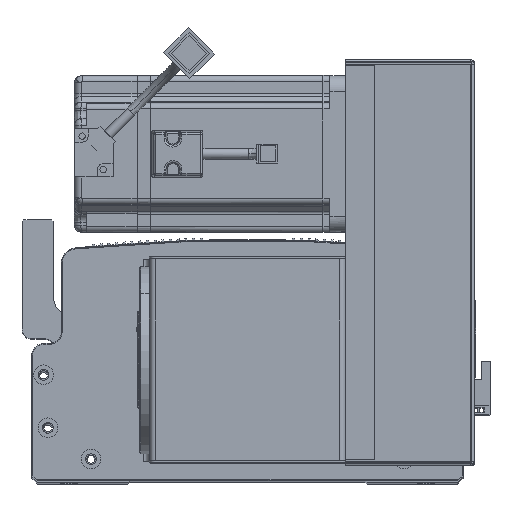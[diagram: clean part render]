
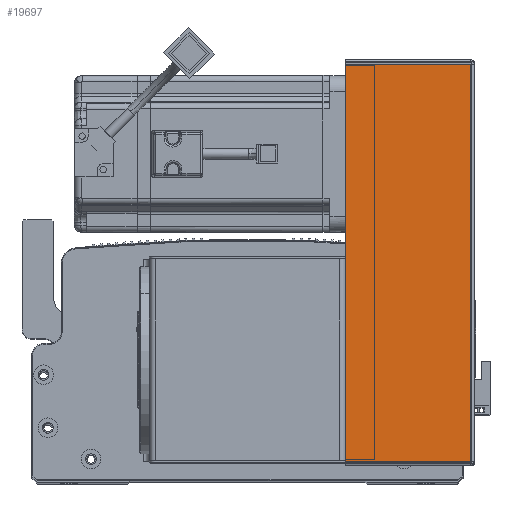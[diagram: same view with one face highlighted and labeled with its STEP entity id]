
A CAD part, top view. The second image highlights one B-rep face of the part: STEP entity #19697.
In plain terms, the highlighted planar face has unit normal (0, 0, 1) as drawn and (0, -1, 0) by its records, which use the part's own axes.
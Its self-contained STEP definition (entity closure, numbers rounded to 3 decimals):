
#1167 = VECTOR ( 'NONE', #31283, 1000. ) ;
#2710 = EDGE_LOOP ( 'NONE', ( #53351, #31908, #28124, #54048 ) ) ;
#6711 = CARTESIAN_POINT ( 'NONE',  ( 64.5, -1.5, 0. ) ) ;
#7996 = DIRECTION ( 'NONE',  ( 0., 1., 0. ) ) ;
#8805 = PLANE ( 'NONE',  #14817 ) ;
#12129 = VERTEX_POINT ( 'NONE', #42213 ) ;
#14817 = AXIS2_PLACEMENT_3D ( 'NONE', #70795, #7996, #14856 ) ;
#14856 = DIRECTION ( 'NONE',  ( -1., 0., 0. ) ) ;
#16224 = CARTESIAN_POINT ( 'NONE',  ( 0.737, -1.5, 0. ) ) ;
#17384 = VECTOR ( 'NONE', #74935, 1000. ) ;
#17730 = CARTESIAN_POINT ( 'NONE',  ( 0., -1.5, -0.707 ) ) ;
#19697 = ADVANCED_FACE ( 'NONE', ( #60911 ), #8805, .F. ) ;
#19786 = VERTEX_POINT ( 'NONE', #54014 ) ;
#21832 = LINE ( 'NONE', #6711, #22806 ) ;
#22806 = VECTOR ( 'NONE', #75852, 1000. ) ;
#27538 = LINE ( 'NONE', #16224, #66032 ) ;
#28124 = ORIENTED_EDGE ( 'NONE', *, *, #65691, .T. ) ;
#30776 = LINE ( 'NONE', #17730, #1167 ) ;
#31283 = DIRECTION ( 'NONE',  ( 1., 0., 0. ) ) ;
#31908 = ORIENTED_EDGE ( 'NONE', *, *, #73469, .T. ) ;
#33366 = VERTEX_POINT ( 'NONE', #58250 ) ;
#42213 = CARTESIAN_POINT ( 'NONE',  ( 64.5, -1.5, -0.707 ) ) ;
#46777 = EDGE_CURVE ( 'NONE', #33366, #12129, #30776, .T. ) ;
#47690 = DIRECTION ( 'NONE',  ( 0., 0., 1. ) ) ;
#53351 = ORIENTED_EDGE ( 'NONE', *, *, #79011, .F. ) ;
#54014 = CARTESIAN_POINT ( 'NONE',  ( 64.5, -1.5, -203.293 ) ) ;
#54048 = ORIENTED_EDGE ( 'NONE', *, *, #46777, .F. ) ;
#58250 = CARTESIAN_POINT ( 'NONE',  ( 0.737, -1.5, -0.707 ) ) ;
#60911 = FACE_OUTER_BOUND ( 'NONE', #2710, .T. ) ;
#64893 = VERTEX_POINT ( 'NONE', #81439 ) ;
#65691 = EDGE_CURVE ( 'NONE', #19786, #12129, #21832, .T. ) ;
#66032 = VECTOR ( 'NONE', #47690, 1000. ) ;
#70795 = CARTESIAN_POINT ( 'NONE',  ( 0., -1.5, 0. ) ) ;
#72549 = LINE ( 'NONE', #74124, #17384 ) ;
#73469 = EDGE_CURVE ( 'NONE', #64893, #19786, #72549, .T. ) ;
#74124 = CARTESIAN_POINT ( 'NONE',  ( 0., -1.5, -203.293 ) ) ;
#74935 = DIRECTION ( 'NONE',  ( 1., 0., 0. ) ) ;
#75852 = DIRECTION ( 'NONE',  ( 0., 0., 1. ) ) ;
#79011 = EDGE_CURVE ( 'NONE', #64893, #33366, #27538, .T. ) ;
#81439 = CARTESIAN_POINT ( 'NONE',  ( 0.737, -1.5, -203.293 ) ) ;
